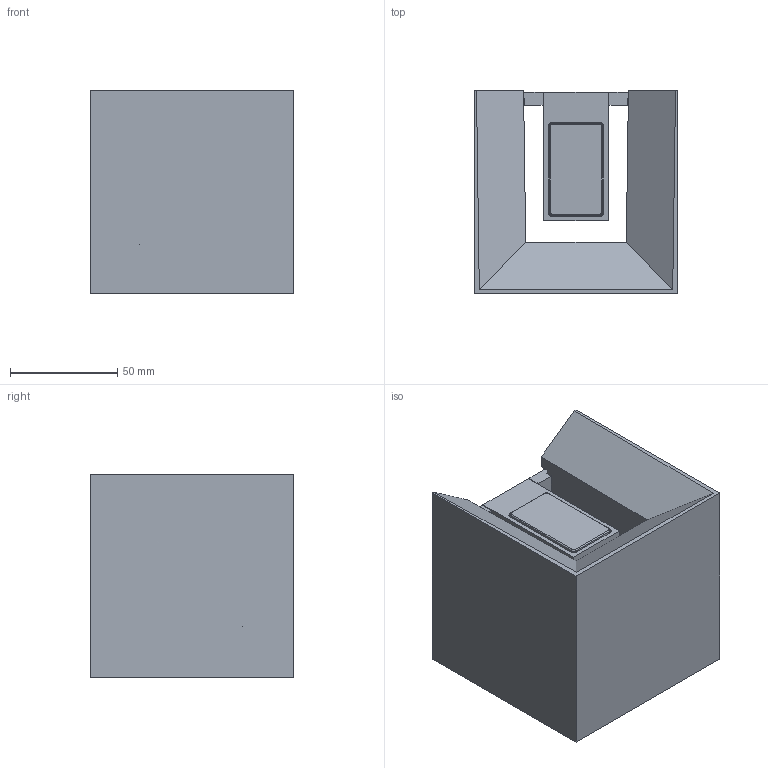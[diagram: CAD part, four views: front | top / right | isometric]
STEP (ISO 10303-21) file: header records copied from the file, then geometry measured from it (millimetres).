
FILE_DESCRIPTION (( 'STEP AP203' ), '1' );
FILE_NAME ('AP308AAEXT.STEP', '2024-01-22T08:59:36', ( '' ), ( '' ), 'SwSTEP 2.0', 'SolidWorks 2019', '' );
FILE_SCHEMA (( 'CONFIG_CONTROL_DESIGN' ));
Length unit declared in the file: millimetre
Products named in the file (5): 10AP308CC; 10CP308VT; 10CP308BZ; AP308AAEXT; 10CP308AZ
Assembly tree (5 placements, depth 2):
  AP308AAEXT
    10AP308CC
    10CP308BZ
    10CP308AZ
    10CP308VT  x2
Bounding box: 95 x 95 x 95 mm (x, y, z)
Volume: 501610.1 mm3; surface area: 90931.3 mm2
Topology: 5 solids, 5 shells, 229 faces, 592 edges, 376 vertices
Faces by surface type: plane 105, cylinder 96, cone 20, torus 8
Entity records: 7033 total; most frequent: DIRECTION 1174, CARTESIAN_POINT 1115, ORIENTED_EDGE 1088, EDGE_CURVE 544, AXIS2_PLACEMENT_3D 411, VECTOR 352, VERTEX_POINT 352, LINE 352
